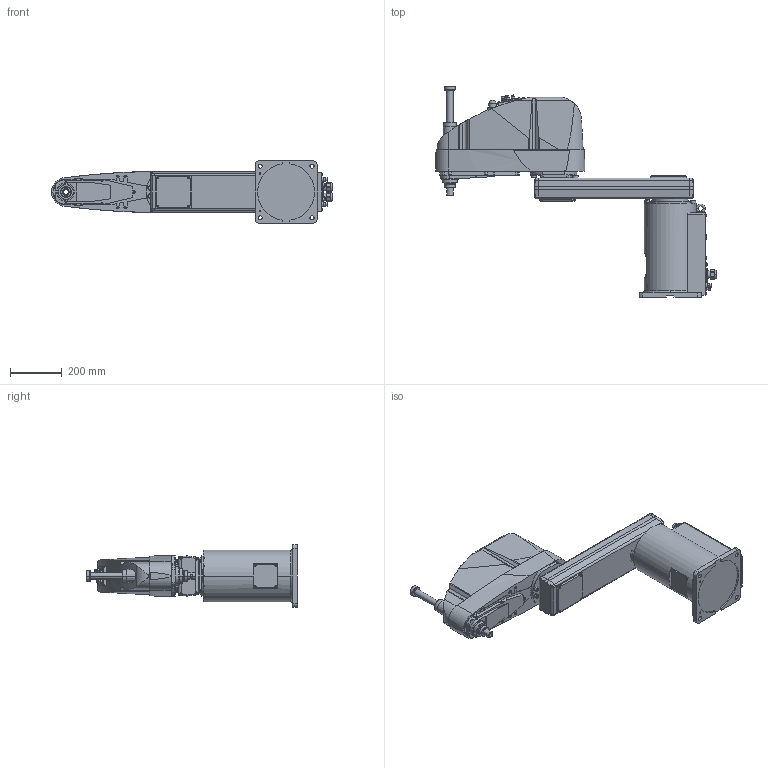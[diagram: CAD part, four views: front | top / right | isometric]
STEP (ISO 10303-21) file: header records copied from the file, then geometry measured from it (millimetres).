
FILE_DESCRIPTION( ( '' ), '1' );
FILE_NAME( '//expscmdclustefs.cadenas.external/client_exchange/iodir/jobs/output/wkb51503278_no0/STEP/G20_851S_2_03.stp', '2012-11-22T12:49:49', ( '' ), ( '' ), ' ', ' ', ' ' );
FILE_SCHEMA( ( 'CONFIG_CONTROL_DESIGN' ) );
Length unit declared in the file: millimetre
Products named in the file (4): 1; 2; 3; 4
Bounding box: 1084.5 x 813.5 x 240 mm (x, y, z)
Volume: 40537548 mm3; surface area: 1372813 mm2
Topology: 4 solids, 5 shells, 1783 faces, 4332 edges, 2812 vertices
Faces by surface type: plane 994, cylinder 573, cone 180, torus 35, sphere 1
Entity records: 53754 total; most frequent: CARTESIAN_POINT 10590, DIRECTION 9216, ORIENTED_EDGE 8648, EDGE_CURVE 4324, AXIS2_PLACEMENT_3D 3228, VERTEX_POINT 2812, LINE 2760, VECTOR 2760
